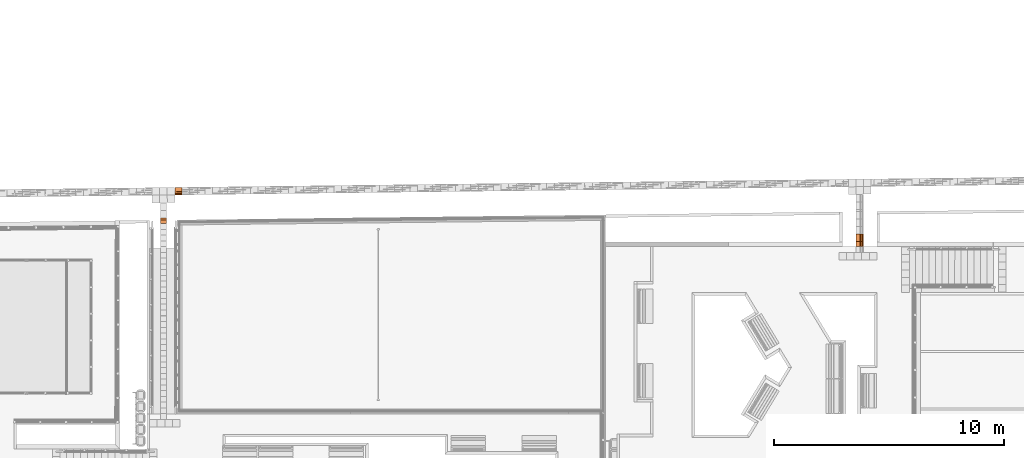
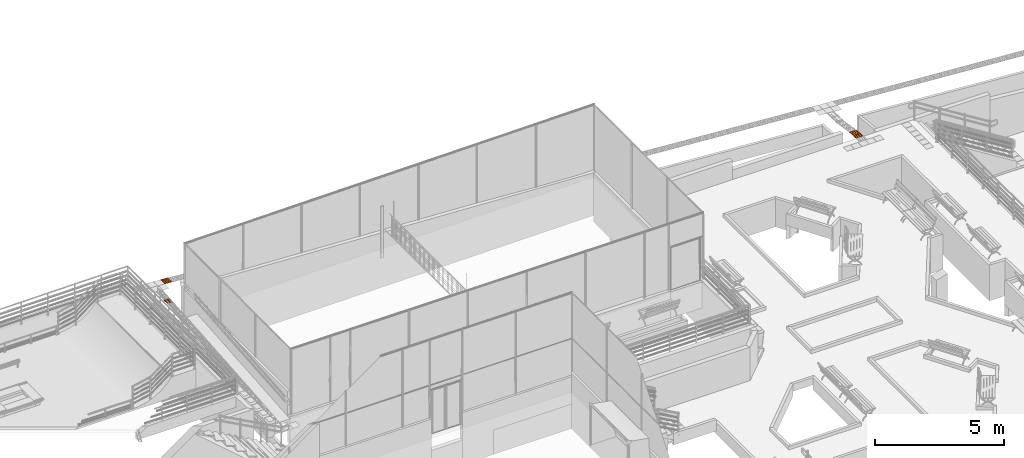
# One storey, part 227 of 237: 5 proxies.
"""IFC2X3 building model written with IfcOpenShell, lengths in millimetres."""

import ifcopenshell
import ifcopenshell.guid

model = None  # the IFC model being written
_history = None  # IfcOwnerHistory: only IFC2X3 demands one
_inside = {}  # id of a spatial element -> (the spatial element, [elements in it])
_under = {}  # id of a project, library or spatial element -> (it, [spatial elements below it])
_declared = {}  # id of a project -> (the project, [libraries it declares])
_typed = {}  # id of a type object -> (the type object, [elements of that type])
_made_of = {}  # id of a material, layer set ... -> (it, [elements and type objects made of it])


def new_model(schema):
    """Start an empty IFC model of exactly this schema.

    Asked for "IFC4X3", IfcOpenShell would pick the latest addendum, in which some entities
    have other attributes; the version numbers below select the first issue.
    IFC2X3 requires an IfcOwnerHistory on every rooted entity: one is made here for all.
    """
    global model, _history
    if schema == "IFC4X3":
        model = ifcopenshell.file(schema_version=(4, 3, 0, 0))
    else:
        model = ifcopenshell.file(schema=schema)
    _inside.clear()
    _under.clear()
    _declared.clear()
    _typed.clear()
    _made_of.clear()
    _history = None
    if model.schema == "IFC2X3":
        org = make("IfcOrganization", Name="unknown")
        user = make(
            "IfcPersonAndOrganization",
            ThePerson=make("IfcPerson", FamilyName="unknown"),
            TheOrganization=org,
        )
        app = make(
            "IfcApplication",
            ApplicationDeveloper=org,
            Version="unknown",
            ApplicationFullName="unknown",
            ApplicationIdentifier="unknown",
        )
        _history = make(
            "IfcOwnerHistory",
            OwningUser=user,
            OwningApplication=app,
            ChangeAction="ADDED",
            CreationDate=0,
        )
    return model


def make(cls, **values):
    """One entity of the class cls with the attributes given. An attribute that is None is left unset."""
    return model.create_entity(
        cls, **{name: value for name, value in values.items() if value is not None}
    )


def entity(cls, *values):
    """Any entity or typed value of the class cls, its attributes in the order of the schema. None: left unset."""
    e = model.create_entity(cls)
    for i, value in enumerate(values):
        if value is not None:
            e[i] = value
    return e


def rooted(cls, **values):
    """An entity with a GlobalId (a new one), such as an element, a storey or a relation."""
    return make(cls, GlobalId=ifcopenshell.guid.new(), OwnerHistory=_history, **values)


def si_unit(unit_type, name, prefix=None):
    """IfcSIUnit, for example si_unit("LENGTHUNIT", "METRE", prefix="MILLI")."""
    return make("IfcSIUnit", UnitType=unit_type, Prefix=prefix, Name=name)


def converted_unit(unit_type, name, factor, base, dimensions=None, offset=None):
    """IfcConversionBasedUnit, such as the inch: factor (a typed value) times the base unit."""
    return make(
        "IfcConversionBasedUnit"
        if offset is None
        else "IfcConversionBasedUnitWithOffset",
        ConversionOffset=offset,
        Dimensions=None
        if dimensions is None
        else entity("IfcDimensionalExponents", *dimensions),
        UnitType=unit_type,
        Name=name,
        ConversionFactor=make(
            "IfcMeasureWithUnit", ValueComponent=factor, UnitComponent=base
        ),
    )


def derived_unit(unit_type, elements):
    """IfcDerivedUnit: a product of units, each with its exponent."""
    return make(
        "IfcDerivedUnit",
        Elements=[
            make("IfcDerivedUnitElement", Unit=unit, Exponent=power)
            for unit, power in elements
        ],
        UnitType=unit_type,
    )


def money_unit(currency):
    """IfcMonetaryUnit."""
    return make("IfcMonetaryUnit", Currency=currency)


def assignment(units):
    """IfcUnitAssignment: the units of a project."""
    return None if units is None else make("IfcUnitAssignment", Units=units)


def point(xyz):
    """IfcCartesianPoint."""
    return None if xyz is None else make("IfcCartesianPoint", Coordinates=xyz)


def direction(xyz):
    """IfcDirection."""
    return None if xyz is None else make("IfcDirection", DirectionRatios=xyz)


def frame(location, z_axis=None, x_axis=None):
    """IfcAxis2Placement3D, a coordinate frame: its origin and axes. An axis left out is left unset."""
    return make(
        "IfcAxis2Placement3D",
        Location=point(location),
        Axis=direction(z_axis),
        RefDirection=direction(x_axis),
    )


def origin_with_axes():
    """The frame at (0, 0, 0) with the z axis (0, 0, 1) and the x axis (1, 0, 0) written out."""
    return frame((0.0, 0.0, 0.0), z_axis=(0.0, 0.0, 1.0), x_axis=(1.0, 0.0, 0.0))


def place(relative_to, where):
    """IfcLocalPlacement: puts the frame where relative to a parent placement (None: the world)."""
    return make(
        "IfcLocalPlacement", PlacementRelTo=relative_to, RelativePlacement=where
    )


def context(
    kind, dimensions, precision=None, world=None, true_north=None, identifier=None
):
    """IfcGeometricRepresentationContext, for example the 3D "Model" context."""
    return make(
        "IfcGeometricRepresentationContext",
        ContextIdentifier=identifier,
        ContextType=kind,
        CoordinateSpaceDimension=dimensions,
        Precision=precision,
        WorldCoordinateSystem=world,
        TrueNorth=true_north,
    )


def subcontext(parent, identifier, kind, view, scale=None):
    """IfcGeometricRepresentationSubContext, for example "Body" below "Model"."""
    return make(
        "IfcGeometricRepresentationSubContext",
        ContextIdentifier=identifier,
        ContextType=kind,
        ParentContext=parent,
        TargetScale=scale,
        TargetView=view,
    )


def project(units=None, contexts=None):
    """IfcProject with its units and contexts."""
    return rooted(
        "IfcProject",
        Name="project",
        RepresentationContexts=contexts,
        UnitsInContext=assignment(units),
    )


def spatial(cls, under=None, at=None, **own):
    """A site, building, storey or space (cls), placed at a placement, below another one or the project."""
    s = rooted(cls, ObjectPlacement=at, **own)
    if under is not None:
        _under.setdefault(under.id(), (under, []))[1].append(s)
    return s


def faces_of(points, faces, orient=None, outer=None):
    """IfcFace entities. A face is a list of loops; a loop is a list of indices into points, from 0.

    orient and outer hold one flag for each loop. By default every Orientation is true, the
    first loop of a face is its IfcFaceOuterBound and the others are IfcFaceBound.
    """
    made = []
    for i, loops in enumerate(faces):
        bounds = []
        for j, loop in enumerate(loops):
            is_outer = j == 0 if outer is None else outer[i][j]
            bounds.append(
                make(
                    "IfcFaceOuterBound" if is_outer else "IfcFaceBound",
                    Bound=make("IfcPolyLoop", Polygon=[points[k] for k in loop]),
                    Orientation=True if orient is None else orient[i][j],
                )
            )
        made.append(make("IfcFace", Bounds=bounds))
    return made


def open_shell(faces, orient=None, outer=None):
    """The faces of one IfcOpenShell. surface_model builds it on its shared points."""
    return ("IfcOpenShell", faces, orient, outer)


def faceted_brep(points, faces, orient=None, outer=None, voids=None):
    """IfcFacetedBrep: a solid bounded by flat faces; with voids (closed shells), ...WithVoids."""
    shared = [point(p) for p in points]
    hull = make("IfcClosedShell", CfsFaces=faces_of(shared, faces, orient, outer))
    if voids is None:
        return make("IfcFacetedBrep", Outer=hull)
    return make(
        "IfcFacetedBrepWithVoids",
        Outer=hull,
        Voids=[
            make(cls, CfsFaces=faces_of(shared, fs, o, b)) for cls, fs, o, b in voids
        ],
    )


def surface_model(cls, points, shells):
    """IfcFaceBasedSurfaceModel or IfcShellBasedSurfaceModel (cls): surfaces that need not close."""
    shared = [point(p) for p in points]
    made = [make(c, CfsFaces=faces_of(shared, fs, o, b)) for c, fs, o, b in shells]
    if cls == "IfcFaceBasedSurfaceModel":
        return make(cls, FbsmFaces=made)
    return make(cls, SbsmBoundary=made)


def shape(context_of_items, identifier, shape_type, items):
    """IfcShapeRepresentation: the items that make up one representation, for example the "Body"."""
    return make(
        "IfcShapeRepresentation",
        ContextOfItems=context_of_items,
        RepresentationIdentifier=identifier,
        RepresentationType=shape_type,
        Items=items,
    )


def made_of(thing, what):
    """Note that an element or type object is made of a material, layer set ...; save() writes the relation."""
    if what is not None:
        _made_of.setdefault(what.id(), (what, []))[1].append(thing)
    return thing


def type_object(cls, material=None, **own):
    """A type object (cls), such as IfcWallType, which elements share."""
    return made_of(rooted(cls, **own), material)


def element(
    cls,
    number,
    at=None,
    inside=None,
    cuts=None,
    type_object=None,
    material=None,
    context=None,
    identifier="Body",
    shape_type=None,
    held_by="IfcProductDefinitionShape",
    body=None,
    shapes=None,
    **own,
):
    """One element of the class cls, such as IfcWall. Its Tag is "e" and its number.

    at: its placement. inside: the storey or other place that contains it. cuts: it is an
    opening in that element (IfcRelVoidsElement). A single representation is given by context,
    identifier, shape_type and body (its items); several are given by shapes. held_by: the class
    of the entity that holds the representations. save() writes the other relations.
    """
    e = rooted(cls, Tag="e%d" % number, ObjectPlacement=at, **own)
    if body is not None:
        shapes = [shape(context, identifier, shape_type, body)]
    if shapes is not None:
        e.Representation = make(held_by, Representations=shapes)
    if inside is not None:
        _inside.setdefault(inside.id(), (inside, []))[1].append(e)
    if cuts is not None:
        rooted(
            "IfcRelVoidsElement", RelatingBuildingElement=cuts, RelatedOpeningElement=e
        )
    if type_object is not None:
        _typed.setdefault(type_object.id(), (type_object, []))[1].append(e)
    return made_of(e, material)


def aggregate(whole, parts):
    """IfcRelAggregates: a whole, such as a stair, and the parts it consists of."""
    return rooted("IfcRelAggregates", RelatingObject=whole, RelatedObjects=parts)


def save(model, path):
    """Write the relations noted so far, then the file.

    IfcRelAggregates (storeys below a building ...), IfcRelContainedInSpatialStructure (elements
    in a storey), IfcRelDefinesByType, IfcRelAssociatesMaterial and IfcRelDeclares: one each for
    every whole, place, type object, material and project.
    """
    for whole, parts in _under.values():
        aggregate(whole, parts)
    for where, things in _inside.values():
        rooted(
            "IfcRelContainedInSpatialStructure",
            RelatedElements=things,
            RelatingStructure=where,
        )
    for kind, things in _typed.values():
        rooted("IfcRelDefinesByType", RelatedObjects=things, RelatingType=kind)
    for what, things in _made_of.values():
        rooted("IfcRelAssociatesMaterial", RelatedObjects=things, RelatingMaterial=what)
    for by, libraries in _declared.values():
        rooted("IfcRelDeclares", RelatingContext=by, RelatedDefinitions=libraries)
    model.write(path)


model = new_model("IFC2X3")

# Units and contexts
model_context = context("Model", 3, precision=0.01, world=origin_with_axes(), true_north=direction((0.0, 1.0)))
body_context = subcontext(model_context, "Body", "Model", "MODEL_VIEW")
ifc_project = project(units=[si_unit("LENGTHUNIT", "METRE", prefix="MILLI"), si_unit("AREAUNIT", "SQUARE_METRE"), si_unit("VOLUMEUNIT", "CUBIC_METRE"), converted_unit("PLANEANGLEUNIT", "DEGREE", entity("IfcPlaneAngleMeasure", 0.0174532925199), si_unit("PLANEANGLEUNIT", "RADIAN"), dimensions=[0, 0, 0, 0, 0, 0, 0]), money_unit("USD"), converted_unit("TIMEUNIT", "Year", entity("IfcTimeMeasure", 31556926.0), si_unit("TIMEUNIT", "SECOND"), dimensions=[0, 0, 1, 0, 0, 0, 0]), si_unit("MASSUNIT", "GRAM", prefix="KILO"), si_unit("THERMODYNAMICTEMPERATUREUNIT", "DEGREE_CELSIUS"), si_unit("LUMINOUSINTENSITYUNIT", "LUMEN"), si_unit("ENERGYUNIT", "JOULE", prefix="MEGA"), derived_unit("THERMALCONDUCTANCEUNIT", [(si_unit("POWERUNIT", "WATT"), 1), (si_unit("LENGTHUNIT", "METRE"), -1), (si_unit("THERMODYNAMICTEMPERATUREUNIT", "KELVIN"), -1)]), derived_unit("SPECIFICHEATCAPACITYUNIT", [(si_unit("ENERGYUNIT", "JOULE"), 1), (si_unit("MASSUNIT", "GRAM", prefix="KILO"), -1), (si_unit("THERMODYNAMICTEMPERATUREUNIT", "KELVIN"), -1)]), derived_unit("MASSDENSITYUNIT", [(si_unit("MASSUNIT", "GRAM", prefix="KILO"), 1), (si_unit("VOLUMEUNIT", "CUBIC_METRE"), -1)])], contexts=[model_context])

# Site, building, storey
site_placement = place(None, origin_with_axes())
site = spatial("IfcSite", under=ifc_project, at=site_placement, Name="Local", CompositionType="ELEMENT")
building_placement = place(site_placement, origin_with_axes())
building = spatial("IfcBuilding", under=site, at=building_placement, Name="Construção", CompositionType="ELEMENT")
storey_placement = place(building_placement, origin_with_axes())
storey = spatial("IfcBuildingStorey", under=building, at=storey_placement, Name="Pavimento Térreo", CompositionType="ELEMENT", Elevation=0.0)

# Proxies
building_element_proxy_type_1 = type_object("IfcBuildingElementProxyType", Name="Piso Direcional 27", PredefinedType="NOTDEFINED")
proxy_1_placement = place(storey_placement, frame((97801.7189326, 34666.3594688, -4995.7813776), z_axis=(0.0, 0.0, 1.0), x_axis=(0.0, -1.0, 0.0)))
element("IfcBuildingElementProxy", 1, at=proxy_1_placement, inside=storey, type_object=building_element_proxy_type_1, Name="Objeto-0055", context=body_context, shape_type="SurfaceModel", body=[
    surface_model("IfcShellBasedSurfaceModel", [(-0.0459383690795, -47.1365767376, 5.26401570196), (197.735745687, -47.1365767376, 6.99003031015), (197.678866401, -41.3707600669, 13.5077508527), (-0.102817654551, -41.3707600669, 11.7817362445)], [open_shell([[[0, 1, 2, 3]]])]),
    surface_model("IfcShellBasedSurfaceModel", [(197.827783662, -153.720372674, -3.55647707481), (197.903166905, 176.166544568, -12.1945410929), (197.78685297, 176.515570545, 1.13371572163), (197.781742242, 154.150355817, 1.71934718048), (197.722307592, 148.733565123, 8.52988345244), (197.717196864, 126.368350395, 9.1155149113), (197.774076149, 120.602533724, 2.59779436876), (197.76257701, 70.2808005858, 3.91546515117), (197.703142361, 64.8640098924, 10.7260014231), (197.698031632, 42.4987951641, 11.311632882), (197.754910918, 36.7329784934, 4.79391233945), (197.743411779, -13.5887546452, 6.11158312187), (197.68397713, -19.0055453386, 12.9221193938), (197.678866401, -41.3707600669, 13.5077508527), (197.735745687, -47.1365767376, 6.99003031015), (197.724246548, -97.4583098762, 8.30770109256), (197.664811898, -102.87510057, 15.1182373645), (197.65970117, -125.240315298, 15.7038688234), (197.716580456, -131.006131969, 9.18614828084), (197.711469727, -153.371346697, 9.77177973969)], [open_shell([[[0, 1, 2, 3, 4, 5, 6, 7, 8, 9, 10, 11, 12, 13, 14, 15, 16, 17, 18, 19]]])]),
    surface_model("IfcShellBasedSurfaceModel", [(-0.0977069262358, -19.0055453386, 11.1961047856), (197.68397713, -19.0055453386, 12.9221193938), (197.743411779, -13.5887546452, 6.11158312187), (-0.0382722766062, -13.5887546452, 4.38556851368)], [open_shell([[[0, 1, 2, 3]]])]),
    surface_model("IfcShellBasedSurfaceModel", [(-0.116872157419, -102.87510057, 13.3922227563), (197.664811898, -102.87510057, 15.1182373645), (197.724246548, -97.4583098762, 8.30770109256), (-0.0574375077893, -97.4583098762, 6.58168648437)], [open_shell([[[0, 1, 2, 3]]])]),
    surface_model("IfcShellBasedSurfaceModel", [(-0.0785416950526, 64.8640098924, 8.99998681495), (197.703142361, 64.8640098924, 10.7260014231), (197.76257701, 70.2808005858, 3.91546515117), (-0.019107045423, 70.2808005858, 2.18945054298)], [open_shell([[[0, 1, 2, 3]]])]),
    surface_model("IfcShellBasedSurfaceModel", [(-0.0267731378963, 36.7329784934, 3.06789773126), (197.754910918, 36.7329784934, 4.79391233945), (197.698031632, 42.4987951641, 11.311632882), (-0.0836524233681, 42.4987951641, 9.5856182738)], [open_shell([[[0, 1, 2, 3]]])]),
    surface_model("IfcShellBasedSurfaceModel", [(-0.0651036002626, -131.006131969, 7.46013367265), (197.716580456, -131.006131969, 9.18614828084), (197.65970117, -125.240315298, 15.7038688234), (-0.121982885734, -125.240315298, 13.9778542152)], [open_shell([[[0, 1, 2, 3]]])]),
    surface_model("IfcShellBasedSurfaceModel", [(0.00516891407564, 176.515570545, -0.592298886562), (5.81857601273e-05, 154.150355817, -0.00666742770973), (197.781742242, 154.150355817, 1.71934718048), (197.78685297, 176.515570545, 1.13371572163)], [open_shell([[[0, 1, 2, 3]]])]),
    surface_model("IfcShellBasedSurfaceModel", [(-0.00760790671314, 120.602533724, 0.871779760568), (197.774076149, 120.602533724, 2.59779436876), (197.717196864, 126.368350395, 9.1155149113), (-0.064487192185, 126.368350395, 7.38950030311)], [open_shell([[[0, 1, 2, 3]]])]),
    surface_model("IfcShellBasedSurfaceModel", [(-0.0593764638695, 148.733565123, 6.80386884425), (197.722307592, 148.733565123, 8.52988345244), (197.781742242, 154.150355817, 1.71934718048), (5.81857601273e-05, 154.150355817, -0.00666742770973)], [open_shell([[[0, 1, 2, 3]]])]),
    surface_model("IfcShellBasedSurfaceModel", [(-0.0267731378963, 36.7329784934, 3.06789773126), (-0.0382722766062, -13.5887546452, 4.38556851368), (197.743411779, -13.5887546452, 6.11158312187), (197.754910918, 36.7329784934, 4.79391233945)], [open_shell([[[0, 1, 2, 3]]])]),
    surface_model("IfcShellBasedSurfaceModel", [(-0.00760790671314, 120.602533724, 0.871779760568), (-0.019107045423, 70.2808005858, 2.18945054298), (197.76257701, 70.2808005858, 3.91546515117), (197.774076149, 120.602533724, 2.59779436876)], [open_shell([[[0, 1, 2, 3]]])]),
    surface_model("IfcShellBasedSurfaceModel", [(-0.0593764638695, 148.733565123, 6.80386884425), (-0.064487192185, 126.368350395, 7.38950030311), (197.717196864, 126.368350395, 9.1155149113), (197.722307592, 148.733565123, 8.52988345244)], [open_shell([[[0, 1, 2, 3]]])]),
    surface_model("IfcShellBasedSurfaceModel", [(-0.00760790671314, 120.602533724, 0.871779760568), (-0.064487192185, 126.368350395, 7.38950030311), (-0.0593764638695, 148.733565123, 6.80386884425), (5.81857601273e-05, 154.150355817, -0.00666742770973), (0.00516891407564, 176.515570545, -0.592298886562), (0.121482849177, 176.166544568, -13.9205557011), (0.0460996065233, -153.720372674, -5.282491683), (-0.0702143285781, -153.371346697, 8.0457651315), (-0.0651036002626, -131.006131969, 7.46013367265), (-0.121982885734, -125.240315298, 13.9778542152), (-0.116872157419, -102.87510057, 13.3922227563), (-0.0574375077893, -97.4583098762, 6.58168648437), (-0.0459383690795, -47.1365767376, 5.26401570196), (-0.102817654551, -41.3707600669, 11.7817362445), (-0.0977069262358, -19.0055453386, 11.1961047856), (-0.0382722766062, -13.5887546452, 4.38556851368), (-0.0267731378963, 36.7329784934, 3.06789773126), (-0.0836524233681, 42.4987951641, 9.5856182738), (-0.0785416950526, 64.8640098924, 8.99998681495), (-0.019107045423, 70.2808005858, 2.18945054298)], [open_shell([[[0, 1, 2, 3, 4, 5, 6, 7, 8, 9, 10, 11, 12, 13, 14, 15, 16, 17, 18, 19]]])]),
    surface_model("IfcShellBasedSurfaceModel", [(197.678866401, -41.3707600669, 13.5077508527), (197.68397713, -19.0055453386, 12.9221193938), (-0.0977069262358, -19.0055453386, 11.1961047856), (-0.102817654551, -41.3707600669, 11.7817362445)], [open_shell([[[0, 1, 2, 3]]])]),
    surface_model("IfcShellBasedSurfaceModel", [(-0.0459383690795, -47.1365767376, 5.26401570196), (-0.0574375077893, -97.4583098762, 6.58168648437), (197.724246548, -97.4583098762, 8.30770109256), (197.735745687, -47.1365767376, 6.99003031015)], [open_shell([[[0, 1, 2, 3]]])]),
    surface_model("IfcShellBasedSurfaceModel", [(197.698031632, 42.4987951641, 11.311632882), (197.703142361, 64.8640098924, 10.7260014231), (-0.0785416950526, 64.8640098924, 8.99998681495), (-0.0836524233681, 42.4987951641, 9.5856182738)], [open_shell([[[0, 1, 2, 3]]])]),
    surface_model("IfcShellBasedSurfaceModel", [(197.65970117, -125.240315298, 15.7038688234), (197.664811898, -102.87510057, 15.1182373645), (-0.116872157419, -102.87510057, 13.3922227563), (-0.121982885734, -125.240315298, 13.9778542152)], [open_shell([[[0, 1, 2, 3]]])]),
    surface_model("IfcShellBasedSurfaceModel", [(197.903166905, 176.166544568, -12.1945410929), (0.121482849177, 176.166544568, -13.9205557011), (0.00516891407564, 176.515570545, -0.592298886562), (197.78685297, 176.515570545, 1.13371572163)], [open_shell([[[0, 1, 2, 3]]])]),
    surface_model("IfcShellBasedSurfaceModel", [(197.827783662, -153.720372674, -3.55647707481), (0.0460996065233, -153.720372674, -5.282491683), (0.121482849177, 176.166544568, -13.9205557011), (197.903166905, 176.166544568, -12.1945410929)], [open_shell([[[0, 1, 2, 3]]])]),
    surface_model("IfcShellBasedSurfaceModel", [(197.711469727, -153.371346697, 9.77177973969), (197.716580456, -131.006131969, 9.18614828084), (-0.0651036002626, -131.006131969, 7.46013367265), (-0.0702143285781, -153.371346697, 8.0457651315)], [open_shell([[[0, 1, 2, 3]]])]),
    surface_model("IfcShellBasedSurfaceModel", [(0.0460996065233, -153.720372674, -5.282491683), (197.827783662, -153.720372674, -3.55647707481), (197.711469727, -153.371346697, 9.77177973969), (-0.0702143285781, -153.371346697, 8.0457651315)], [open_shell([[[0, 1, 2, 3]]])]),
])
proxy_2_placement = place(storey_placement, frame((97801.7189326, 34994.4942786, -5024.46428119), z_axis=(0.0, 0.0, 1.0), x_axis=(0.0, -1.0, 0.0)))
element("IfcBuildingElementProxy", 2, at=proxy_2_placement, inside=storey, type_object=building_element_proxy_type_1, Name="Objeto-0055", context=body_context, shape_type="SurfaceModel", body=[
    surface_model("IfcShellBasedSurfaceModel", [(-0.566190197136, -46.9826230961, 6.47158356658), (328.178060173, -46.9826230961, 35.2329786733), (327.62333098, -41.0481616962, 41.5735623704), (-1.12091939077, -41.0481616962, 12.8121672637)], [open_shell([[[0, 1, 2, 3]]])]),
    surface_model("IfcShellBasedSurfaceModel", [(328.853800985, -153.805981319, 27.5092258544), (330.3590561, 175.74176515, 10.3040811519), (329.198572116, 176.4395779, 23.5684737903), (329.096520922, 154.0973578, 24.7349242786), (328.490766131, 148.86070915, 31.6587332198), (328.388714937, 126.518489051, 32.8251837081), (328.94344413, 120.584027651, 26.484600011), (328.713828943, 70.3140324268, 29.1091136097), (328.108074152, 65.0773837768, 36.032922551), (328.006022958, 42.7351636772, 37.1993730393), (328.560752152, 36.8007022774, 30.8587893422), (328.331136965, -13.4692929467, 33.4833029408), (327.725382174, -18.7059415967, 40.4071118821), (327.62333098, -41.0481616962, 41.5735623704), (328.178060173, -46.9826230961, 35.2329786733), (327.948444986, -97.2526183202, 37.857492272), (327.342690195, -102.48926697, 44.7813012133), (327.240639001, -124.83148707, 45.9477517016), (327.795368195, -130.76594847, 39.6071680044), (327.693317, -153.108168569, 40.7736184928)], [open_shell([[[0, 1, 2, 3, 4, 5, 6, 7, 8, 9, 10, 11, 12, 13, 14, 15, 16, 17, 18, 19]]])]),
    surface_model("IfcShellBasedSurfaceModel", [(-1.01886819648, -18.7059415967, 11.6457167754), (327.725382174, -18.7059415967, 40.4071118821), (328.331136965, -13.4692929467, 33.4833029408), (-0.4131134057, -13.4692929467, 4.72190783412)], [open_shell([[[0, 1, 2, 3]]])]),
    surface_model("IfcShellBasedSurfaceModel", [(-1.40156017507, -102.48926697, 16.0199061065), (327.342690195, -102.48926697, 44.7813012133), (327.948444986, -97.2526183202, 37.857492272), (-0.795805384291, -97.2526183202, 9.09609716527)], [open_shell([[[0, 1, 2, 3]]])]),
    surface_model("IfcShellBasedSurfaceModel", [(-0.63617621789, 65.0773837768, 7.27152744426), (328.108074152, 65.0773837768, 36.032922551), (328.713828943, 70.3140324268, 29.1091136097), (-0.0304214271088, 70.3140324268, 0.347718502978)], [open_shell([[[0, 1, 2, 3]]])]),
    surface_model("IfcShellBasedSurfaceModel", [(-0.183498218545, 36.8007022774, 2.09739423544), (328.560752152, 36.8007022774, 30.8587893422), (328.006022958, 42.7351636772, 37.1993730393), (-0.738227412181, 42.7351636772, 8.43797793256)], [open_shell([[[0, 1, 2, 3]]])]),
    surface_model("IfcShellBasedSurfaceModel", [(-0.948882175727, -130.76594847, 10.8457728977), (327.795368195, -130.76594847, 39.6071680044), (327.240639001, -124.83148707, 45.9477517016), (-1.50361136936, -124.83148707, 17.1863565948)], [open_shell([[[0, 1, 2, 3]]])]),
    surface_model("IfcShellBasedSurfaceModel", [(0.454321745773, 176.4395779, -5.19292131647), (0.352270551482, 154.0973578, -4.02647082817), (329.096520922, 154.0973578, 24.7349242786), (329.198572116, 176.4395779, 23.5684737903)], [open_shell([[[0, 1, 2, 3]]])]),
    surface_model("IfcShellBasedSurfaceModel", [(0.199193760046, 120.584027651, -2.27679509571), (328.94344413, 120.584027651, 26.484600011), (328.388714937, 126.518489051, 32.8251837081), (-0.35553543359, 126.518489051, 4.06378860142)], [open_shell([[[0, 1, 2, 3]]])]),
    surface_model("IfcShellBasedSurfaceModel", [(-0.253484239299, 148.86070915, 2.89733811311), (328.490766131, 148.86070915, 31.6587332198), (329.096520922, 154.0973578, 24.7349242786), (0.352270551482, 154.0973578, -4.02647082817)], [open_shell([[[0, 1, 2, 3]]])]),
    surface_model("IfcShellBasedSurfaceModel", [(-0.183498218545, 36.8007022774, 2.09739423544), (-0.4131134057, -13.4692929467, 4.72190783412), (328.331136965, -13.4692929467, 33.4833029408), (328.560752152, 36.8007022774, 30.8587893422)], [open_shell([[[0, 1, 2, 3]]])]),
    surface_model("IfcShellBasedSurfaceModel", [(0.199193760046, 120.584027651, -2.27679509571), (-0.0304214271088, 70.3140324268, 0.347718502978), (328.713828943, 70.3140324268, 29.1091136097), (328.94344413, 120.584027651, 26.484600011)], [open_shell([[[0, 1, 2, 3]]])]),
    surface_model("IfcShellBasedSurfaceModel", [(-0.253484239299, 148.86070915, 2.89733811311), (-0.35553543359, 126.518489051, 4.06378860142), (328.388714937, 126.518489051, 32.8251837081), (328.490766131, 148.86070915, 31.6587332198)], [open_shell([[[0, 1, 2, 3]]])]),
    surface_model("IfcShellBasedSurfaceModel", [(0.199193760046, 120.584027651, -2.27679509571), (-0.35553543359, 126.518489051, 4.06378860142), (-0.253484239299, 148.86070915, 2.89733811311), (0.352270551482, 154.0973578, -4.02647082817), (0.454321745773, 176.4395779, -5.19292131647), (1.61480573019, 175.74176515, -18.4573139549), (0.109550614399, -153.805981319, -1.25216925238), (-1.05093337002, -153.108168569, 12.012223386), (-0.948882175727, -130.76594847, 10.8457728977), (-1.50361136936, -124.83148707, 17.1863565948), (-1.40156017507, -102.48926697, 16.0199061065), (-0.795805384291, -97.2526183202, 9.09609716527), (-0.566190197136, -46.9826230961, 6.47158356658), (-1.12091939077, -41.0481616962, 12.8121672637), (-1.01886819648, -18.7059415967, 11.6457167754), (-0.4131134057, -13.4692929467, 4.72190783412), (-0.183498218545, 36.8007022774, 2.09739423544), (-0.738227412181, 42.7351636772, 8.43797793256), (-0.63617621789, 65.0773837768, 7.27152744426), (-0.0304214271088, 70.3140324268, 0.347718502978)], [open_shell([[[0, 1, 2, 3, 4, 5, 6, 7, 8, 9, 10, 11, 12, 13, 14, 15, 16, 17, 18, 19]]])]),
    surface_model("IfcShellBasedSurfaceModel", [(327.62333098, -41.0481616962, 41.5735623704), (327.725382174, -18.7059415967, 40.4071118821), (-1.01886819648, -18.7059415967, 11.6457167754), (-1.12091939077, -41.0481616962, 12.8121672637)], [open_shell([[[0, 1, 2, 3]]])]),
    surface_model("IfcShellBasedSurfaceModel", [(-0.566190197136, -46.9826230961, 6.47158356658), (-0.795805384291, -97.2526183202, 9.09609716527), (327.948444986, -97.2526183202, 37.857492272), (328.178060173, -46.9826230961, 35.2329786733)], [open_shell([[[0, 1, 2, 3]]])]),
    surface_model("IfcShellBasedSurfaceModel", [(328.006022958, 42.7351636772, 37.1993730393), (328.108074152, 65.0773837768, 36.032922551), (-0.63617621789, 65.0773837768, 7.27152744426), (-0.738227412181, 42.7351636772, 8.43797793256)], [open_shell([[[0, 1, 2, 3]]])]),
    surface_model("IfcShellBasedSurfaceModel", [(327.240639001, -124.83148707, 45.9477517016), (327.342690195, -102.48926697, 44.7813012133), (-1.40156017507, -102.48926697, 16.0199061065), (-1.50361136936, -124.83148707, 17.1863565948)], [open_shell([[[0, 1, 2, 3]]])]),
    surface_model("IfcShellBasedSurfaceModel", [(330.3590561, 175.74176515, 10.3040811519), (1.61480573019, 175.74176515, -18.4573139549), (0.454321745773, 176.4395779, -5.19292131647), (329.198572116, 176.4395779, 23.5684737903)], [open_shell([[[0, 1, 2, 3]]])]),
    surface_model("IfcShellBasedSurfaceModel", [(328.853800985, -153.805981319, 27.5092258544), (0.109550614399, -153.805981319, -1.25216925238), (1.61480573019, 175.74176515, -18.4573139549), (330.3590561, 175.74176515, 10.3040811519)], [open_shell([[[0, 1, 2, 3]]])]),
    surface_model("IfcShellBasedSurfaceModel", [(327.693317, -153.108168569, 40.7736184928), (327.795368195, -130.76594847, 39.6071680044), (-0.948882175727, -130.76594847, 10.8457728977), (-1.05093337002, -153.108168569, 12.012223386)], [open_shell([[[0, 1, 2, 3]]])]),
    surface_model("IfcShellBasedSurfaceModel", [(0.109550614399, -153.805981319, -1.25216925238), (328.853800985, -153.805981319, 27.5092258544), (327.693317, -153.108168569, 40.7736184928), (-1.05093337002, -153.108168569, 12.012223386)], [open_shell([[[0, 1, 2, 3]]])]),
])
proxy_3_placement = place(storey_placement, frame((68378.3679332, 36878.2788612, -2879.07007206), z_axis=(0.0, 0.0, 1.0), x_axis=(-0.999926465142, -0.012127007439, 0.0)))
element("IfcBuildingElementProxy", 3, at=proxy_3_placement, inside=storey, type_object=building_element_proxy_type_1, Name="Objeto-0055", context=body_context, shape_type="SurfaceModel", body=[
    surface_model("IfcShellBasedSurfaceModel", [(-0.309064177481, -47.3204379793, 4.01664745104), (318.79257487, -47.3204379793, 28.5701804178), (318.281114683, -41.719854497, 35.217198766), (-0.820524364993, -41.719854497, 10.6636657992)], [open_shell([[[0, 1, 2, 3]]])]),
    surface_model("IfcShellBasedSurfaceModel", [(319.815495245, -153.731524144, 15.2761437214), (319.815495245, 176.702901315, 15.2761437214), (318.79257487, 176.702901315, 28.5701804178), (318.79257487, 154.300567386, 28.5701804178), (318.281114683, 148.699983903, 35.217198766), (318.281114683, 126.297649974, 35.217198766), (318.79257487, 120.697066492, 28.5701804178), (318.79257487, 70.2918151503, 28.5701804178), (318.281114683, 64.6912316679, 35.217198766), (318.281114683, 42.2888977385, 35.217198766), (318.79257487, 36.6883142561, 28.5701804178), (318.79257487, -13.7169370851, 28.5701804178), (318.281114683, -19.3175205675, 35.217198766), (318.281114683, -41.719854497, 35.217198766), (318.79257487, -47.3204379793, 28.5701804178), (318.79257487, -97.7256893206, 28.5701804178), (318.281114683, -103.326272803, 35.217198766), (318.281114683, -125.728606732, 35.217198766), (318.79257487, -131.329190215, 28.5701804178), (318.79257487, -153.731524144, 28.5701804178)], [open_shell([[[0, 1, 2, 3, 4, 5, 6, 7, 8, 9, 10, 11, 12, 13, 14, 15, 16, 17, 18, 19]]])]),
    surface_model("IfcShellBasedSurfaceModel", [(-0.820524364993, -19.3175205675, 10.6636657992), (318.281114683, -19.3175205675, 35.217198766), (318.79257487, -13.7169370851, 28.5701804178), (-0.309064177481, -13.7169370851, 4.01664745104)], [open_shell([[[0, 1, 2, 3]]])]),
    surface_model("IfcShellBasedSurfaceModel", [(-0.820524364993, -103.326272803, 10.6636657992), (318.281114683, -103.326272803, 35.217198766), (318.79257487, -97.7256893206, 28.5701804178), (-0.309064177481, -97.7256893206, 4.01664745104)], [open_shell([[[0, 1, 2, 3]]])]),
    surface_model("IfcShellBasedSurfaceModel", [(-0.820524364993, 64.6912316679, 10.6636657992), (318.281114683, 64.6912316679, 35.217198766), (318.79257487, 70.2918151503, 28.5701804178), (-0.309064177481, 70.2918151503, 4.01664745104)], [open_shell([[[0, 1, 2, 3]]])]),
    surface_model("IfcShellBasedSurfaceModel", [(-0.309064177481, 36.6883142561, 4.01664745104), (318.79257487, 36.6883142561, 28.5701804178), (318.281114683, 42.2888977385, 35.217198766), (-0.820524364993, 42.2888977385, 10.6636657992)], [open_shell([[[0, 1, 2, 3]]])]),
    surface_model("IfcShellBasedSurfaceModel", [(-0.309064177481, -131.329190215, 4.01664745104), (318.79257487, -131.329190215, 28.5701804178), (318.281114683, -125.728606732, 35.217198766), (-0.820524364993, -125.728606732, 10.6636657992)], [open_shell([[[0, 1, 2, 3]]])]),
    surface_model("IfcShellBasedSurfaceModel", [(-0.309064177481, 176.702901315, 4.01664745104), (-0.309064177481, 154.300567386, 4.01664745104), (318.79257487, 154.300567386, 28.5701804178), (318.79257487, 176.702901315, 28.5701804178)], [open_shell([[[0, 1, 2, 3]]])]),
    surface_model("IfcShellBasedSurfaceModel", [(-0.309064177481, 120.697066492, 4.01664745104), (318.79257487, 120.697066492, 28.5701804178), (318.281114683, 126.297649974, 35.217198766), (-0.820524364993, 126.297649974, 10.6636657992)], [open_shell([[[0, 1, 2, 3]]])]),
    surface_model("IfcShellBasedSurfaceModel", [(-0.820524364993, 148.699983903, 10.6636657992), (318.281114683, 148.699983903, 35.217198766), (318.79257487, 154.300567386, 28.5701804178), (-0.309064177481, 154.300567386, 4.01664745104)], [open_shell([[[0, 1, 2, 3]]])]),
    surface_model("IfcShellBasedSurfaceModel", [(-0.309064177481, 36.6883142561, 4.01664745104), (-0.309064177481, -13.7169370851, 4.01664745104), (318.79257487, -13.7169370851, 28.5701804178), (318.79257487, 36.6883142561, 28.5701804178)], [open_shell([[[0, 1, 2, 3]]])]),
    surface_model("IfcShellBasedSurfaceModel", [(-0.309064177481, 120.697066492, 4.01664745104), (-0.309064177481, 70.2918151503, 4.01664745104), (318.79257487, 70.2918151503, 28.5701804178), (318.79257487, 120.697066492, 28.5701804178)], [open_shell([[[0, 1, 2, 3]]])]),
    surface_model("IfcShellBasedSurfaceModel", [(-0.820524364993, 148.699983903, 10.6636657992), (-0.820524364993, 126.297649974, 10.6636657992), (318.281114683, 126.297649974, 35.217198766), (318.281114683, 148.699983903, 35.217198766)], [open_shell([[[0, 1, 2, 3]]])]),
    surface_model("IfcShellBasedSurfaceModel", [(-0.309064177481, 120.697066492, 4.01664745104), (-0.820524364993, 126.297649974, 10.6636657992), (-0.820524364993, 148.699983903, 10.6636657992), (-0.309064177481, 154.300567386, 4.01664745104), (-0.309064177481, 176.702901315, 4.01664745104), (0.713856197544, 176.702901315, -9.27738924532), (0.713856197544, -153.731524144, -9.27738924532), (-0.309064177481, -153.731524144, 4.01664745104), (-0.309064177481, -131.329190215, 4.01664745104), (-0.820524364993, -125.728606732, 10.6636657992), (-0.820524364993, -103.326272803, 10.6636657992), (-0.309064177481, -97.7256893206, 4.01664745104), (-0.309064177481, -47.3204379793, 4.01664745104), (-0.820524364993, -41.719854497, 10.6636657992), (-0.820524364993, -19.3175205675, 10.6636657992), (-0.309064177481, -13.7169370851, 4.01664745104), (-0.309064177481, 36.6883142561, 4.01664745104), (-0.820524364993, 42.2888977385, 10.6636657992), (-0.820524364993, 64.6912316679, 10.6636657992), (-0.309064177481, 70.2918151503, 4.01664745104)], [open_shell([[[0, 1, 2, 3, 4, 5, 6, 7, 8, 9, 10, 11, 12, 13, 14, 15, 16, 17, 18, 19]]])]),
    surface_model("IfcShellBasedSurfaceModel", [(318.281114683, -41.719854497, 35.217198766), (318.281114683, -19.3175205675, 35.217198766), (-0.820524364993, -19.3175205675, 10.6636657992), (-0.820524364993, -41.719854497, 10.6636657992)], [open_shell([[[0, 1, 2, 3]]])]),
    surface_model("IfcShellBasedSurfaceModel", [(-0.309064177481, -47.3204379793, 4.01664745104), (-0.309064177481, -97.7256893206, 4.01664745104), (318.79257487, -97.7256893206, 28.5701804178), (318.79257487, -47.3204379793, 28.5701804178)], [open_shell([[[0, 1, 2, 3]]])]),
    surface_model("IfcShellBasedSurfaceModel", [(318.281114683, 42.2888977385, 35.217198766), (318.281114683, 64.6912316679, 35.217198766), (-0.820524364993, 64.6912316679, 10.6636657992), (-0.820524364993, 42.2888977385, 10.6636657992)], [open_shell([[[0, 1, 2, 3]]])]),
    surface_model("IfcShellBasedSurfaceModel", [(318.281114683, -125.728606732, 35.217198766), (318.281114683, -103.326272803, 35.217198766), (-0.820524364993, -103.326272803, 10.6636657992), (-0.820524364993, -125.728606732, 10.6636657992)], [open_shell([[[0, 1, 2, 3]]])]),
    surface_model("IfcShellBasedSurfaceModel", [(319.815495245, 176.702901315, 15.2761437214), (0.713856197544, 176.702901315, -9.27738924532), (-0.309064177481, 176.702901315, 4.01664745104), (318.79257487, 176.702901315, 28.5701804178)], [open_shell([[[0, 1, 2, 3]]])]),
    surface_model("IfcShellBasedSurfaceModel", [(319.815495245, -153.731524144, 15.2761437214), (0.713856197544, -153.731524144, -9.27738924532), (0.713856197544, 176.702901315, -9.27738924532), (319.815495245, 176.702901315, 15.2761437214)], [open_shell([[[0, 1, 2, 3]]])]),
    surface_model("IfcShellBasedSurfaceModel", [(318.79257487, -153.731524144, 28.5701804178), (318.79257487, -131.329190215, 28.5701804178), (-0.309064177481, -131.329190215, 4.01664745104), (-0.309064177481, -153.731524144, 4.01664745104)], [open_shell([[[0, 1, 2, 3]]])]),
    surface_model("IfcShellBasedSurfaceModel", [(0.713856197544, -153.731524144, -9.27738924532), (319.815495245, -153.731524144, 15.2761437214), (318.79257487, -153.731524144, 28.5701804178), (-0.309064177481, -153.731524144, 4.01664745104)], [open_shell([[[0, 1, 2, 3]]])]),
])
building_element_proxy_type_2 = type_object("IfcBuildingElementProxyType", Name="FALTA", PredefinedType="NOTDEFINED")
proxy_4_placement = place(storey_placement, frame((67574.6654449, 35453.3574563, -2818.54781391), z_axis=(0.0684315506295, 0.0207822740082, 0.997439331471), x_axis=(-0.00142247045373, 0.999784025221, -0.0207335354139)))
element("IfcBuildingElementProxy", 4, at=proxy_4_placement, inside=storey, type_object=building_element_proxy_type_2, Name="Objeto-0055", context=body_context, shape_type="Brep", body=[
    faceted_brep([(-0.245935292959, 53.1813649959, 4.02100649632), (152.821681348, 53.1813649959, 13.3830229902), (152.362482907, 91.3169582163, 13.3549372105), (-0.245935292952, 91.3169582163, 4.02100649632), (-0.652925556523, 48.9440768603, 10.6752384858), (153.020010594, 48.9440768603, 20.074277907), (153.22409879, 31.994924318, 20.0867604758), (153.127813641, 27.7576361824, 13.4017468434), (153.587012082, -10.377957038, 13.4298326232), (153.785341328, -14.6152451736, 20.1210875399), (153.989429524, -31.5643977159, 20.1335701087), (153.893144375, -35.8016858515, 13.4485564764), (154.352342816, -73.9372790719, 13.4766422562), (154.550672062, -78.1745672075, 20.1678971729), (154.754760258, -95.1237197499, 20.1803797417), (154.658475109, -99.3610078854, 13.4953661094), (154.862563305, -116.310160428, 13.5078486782), (154.56794891, -116.310160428, 0.131580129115), (151.557648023, 133.689839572, -0.0525377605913), (151.852262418, 133.689839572, 13.3237307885), (152.056350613, 116.74068703, 13.3362133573), (152.25467986, 112.503398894, 20.027468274), (152.458768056, 95.5542463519, 20.0399508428), (-0.652925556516, 95.5542463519, 10.6752384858), (-0.652925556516, -78.1745672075, 10.6752384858), (-0.245935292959, -73.9372790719, 4.02100649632), (-0.245935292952, -35.8016858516, 4.02100649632), (-0.652925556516, -31.5643977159, 10.6752384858), (-0.652925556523, -14.6152451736, 10.6752384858), (-0.245935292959, -10.377957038, 4.02100649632), (-0.245935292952, 27.7576361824, 4.02100649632), (-0.652925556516, 31.994924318, 10.6752384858), (-0.652925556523, 112.503398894, 10.6752384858), (-0.245935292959, 116.74068703, 4.02100649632), (-0.245935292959, 133.689839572, 4.02100649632), (0.568045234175, 133.689839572, -9.28745748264), (0.568045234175, -116.310160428, -9.28745748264), (-0.245935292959, -116.310160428, 4.02100649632), (-0.245935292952, -99.3610078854, 4.02100649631), (-0.652925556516, -95.1237197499, 10.6752384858)], [[[0, 1, 2, 3]], [[0, 4, 5, 1]], [[1, 5, 6, 7, 8, 9, 10, 11, 12, 13, 14, 15, 16, 17, 18, 19, 20, 21, 22, 2]], [[23, 3, 2, 22]], [[24, 25, 26, 27, 28, 29, 30, 31, 4, 0, 3, 23, 32, 33, 34, 35, 36, 37, 38, 39]], [[4, 31, 6, 5]], [[31, 30, 7, 6]], [[7, 30, 29, 8]], [[29, 28, 9, 8]], [[28, 27, 10, 9]], [[27, 26, 11, 10]], [[11, 26, 25, 12]], [[25, 24, 13, 12]], [[24, 39, 14, 13]], [[39, 38, 15, 14]], [[15, 38, 37, 16]], [[37, 36, 17, 16]], [[36, 35, 18, 17]], [[34, 19, 18, 35]], [[34, 33, 20, 19]], [[33, 32, 21, 20]], [[32, 23, 22, 21]]]),
])
proxy_5_placement = place(storey_placement, frame((67556.4358699, 35936.0483018, -2813.84175677), z_axis=(0.0, 0.0, 1.0), x_axis=(0.0, -1.0, 0.0)))
element("IfcBuildingElementProxy", 5, at=proxy_5_placement, inside=storey, type_object=building_element_proxy_type_2, Name="Objeto-0055", context=body_context, shape_type="Brep", body=[
    faceted_brep([(236.053569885, -115.658301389, 15.0003509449), (236.053569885, -98.7591021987, 13.69997892), (236.053569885, -94.0228422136, 20.0221573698), (236.053569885, -77.1236430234, 18.7217853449), (236.053569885, -73.4103034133, 11.7494208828), (236.053569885, -35.3871052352, 8.82358382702), (236.053569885, -30.6508452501, 15.1457622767), (236.053569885, -13.7516460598, 13.8453902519), (236.053569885, -10.0383064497, 6.87302578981), (236.053569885, 27.9848917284, 3.947188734), (236.053569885, 32.7211517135, 10.2693671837), (236.053569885, 49.6203509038, 8.9689951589), (236.053569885, 53.3336905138, 1.99663069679), (236.053569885, 91.356888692, -0.929206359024), (236.053569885, 96.0931486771, 5.39297209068), (236.053569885, 112.992347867, 4.09260006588), (236.053569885, 116.705687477, -2.87976439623), (236.053569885, 133.604886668, -4.18013642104), (236.053569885, 132.581966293, -17.4746793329), (236.053569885, -116.681221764, 1.70580803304), (329.874514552, -115.658301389, 15.819113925), (329.885861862, -98.7591021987, 14.5188409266), (329.830693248, -94.0228422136, 20.8405379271), (329.842040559, -77.1236430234, 19.5402649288), (329.902882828, -73.4103034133, 12.5684314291), (329.928414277, -35.3871052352, 9.64281718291), (329.873245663, -30.6508452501, 15.9645141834), (329.884592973, -13.7516460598, 14.6642411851), (329.945435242, -10.0383064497, 7.69240768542), (329.970966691, 27.9848917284, 4.76679343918), (329.915798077, 32.7211517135, 11.0884904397), (329.927145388, 49.6203509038, 9.78821744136), (329.987987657, 53.3336905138, 2.81638394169), (330.013519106, 91.356888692, -0.109230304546), (329.958350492, 96.0931486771, 6.21246669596), (329.969697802, 112.992347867, 4.91219369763), (330.030540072, 116.705687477, -2.05963980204), (330.041887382, 133.604886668, -3.35991280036), (330.157898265, 132.581966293, -16.6534433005), (329.990525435, -116.681221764, 2.52558342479)], [[[0, 1, 2, 3, 4, 5, 6, 7, 8, 9, 10, 11, 12, 13, 14, 15, 16, 17, 18, 19]], [[1, 0, 20, 21]], [[2, 1, 21, 22]], [[2, 22, 23, 3]], [[3, 23, 24, 4]], [[5, 4, 24, 25]], [[6, 5, 25, 26]], [[27, 7, 6, 26]], [[7, 27, 28, 8]], [[9, 8, 28, 29]], [[10, 9, 29, 30]], [[10, 30, 31, 11]], [[32, 12, 11, 31]], [[33, 13, 12, 32]], [[13, 33, 34, 14]], [[14, 34, 35, 15]], [[36, 16, 15, 35]], [[37, 17, 16, 36]], [[38, 18, 17, 37]], [[39, 19, 18, 38]], [[0, 19, 39, 20]], [[24, 23, 22, 21, 20, 39, 38, 37, 36, 35, 34, 33, 32, 31, 30, 29, 28, 27, 26, 25]]]),
])

save(model, "model.ifc")
